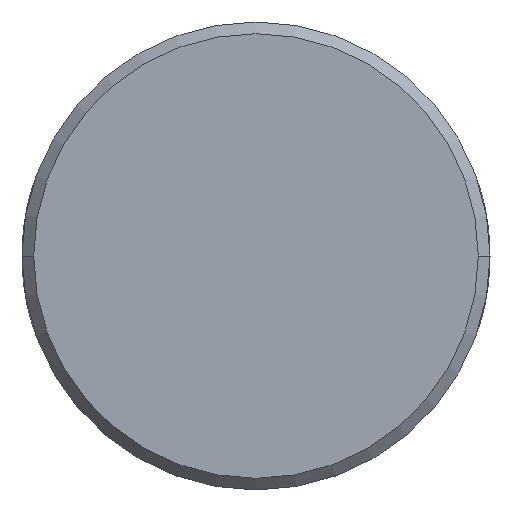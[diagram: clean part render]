
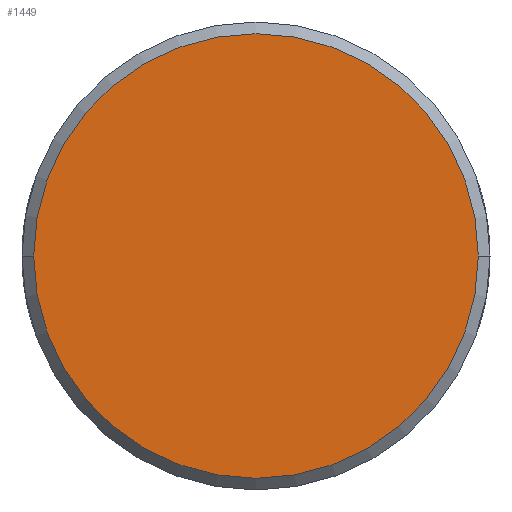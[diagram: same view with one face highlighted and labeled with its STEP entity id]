
A CAD part, front view. The second image highlights one B-rep face of the part: STEP entity #1449.
In plain terms, the highlighted planar face has unit normal (0, -1, 0).
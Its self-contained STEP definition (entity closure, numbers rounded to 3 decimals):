
#1=CARTESIAN_POINT('',(0.,-30.,0.));
#2=DIRECTION('',(0.,-1.,0.));
#3=DIRECTION('',(-1.,0.,0.));
#4=AXIS2_PLACEMENT_3D('',#1,#2,#3);
#6=CARTESIAN_POINT('',(0.,-30.,0.));
#7=DIRECTION('',(0.,-1.,0.));
#8=DIRECTION('',(1.,0.,0.));
#9=AXIS2_PLACEMENT_3D('',#6,#7,#8);
#1355=CARTESIAN_POINT('',(-5.7,-30.,0.));
#1356=CARTESIAN_POINT('',(5.7,-30.,0.));
#1357=VERTEX_POINT('',#1355);
#1358=VERTEX_POINT('',#1356);
#1438=CARTESIAN_POINT('',(0.,-30.,0.));
#1439=DIRECTION('',(0.,1.,0.));
#1440=DIRECTION('',(1.,0.,0.));
#1441=AXIS2_PLACEMENT_3D('',#1438,#1439,#1440);
#1442=PLANE('',#1441);
#1444=ORIENTED_EDGE('',*,*,#1443,.F.);
#1446=ORIENTED_EDGE('',*,*,#1445,.F.);
#1447=EDGE_LOOP('',(#1444,#1446));
#1448=FACE_OUTER_BOUND('',#1447,.F.);
#1449=ADVANCED_FACE('',(#1448),#1442,.F.);
#5=CIRCLE('',#4,5.7);
#10=CIRCLE('',#9,5.7);
#1443=EDGE_CURVE('',#1357,#1358,#5,.T.);
#1445=EDGE_CURVE('',#1358,#1357,#10,.T.);
